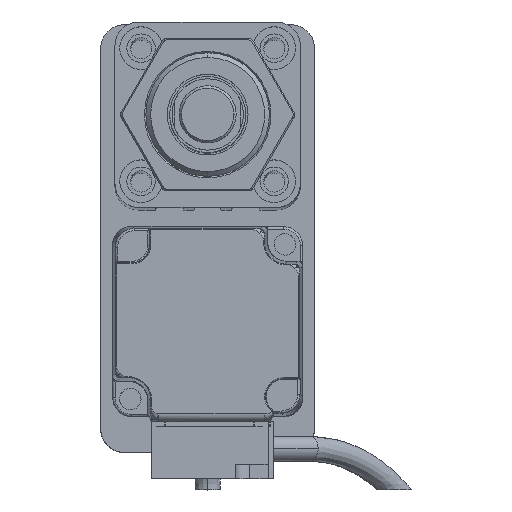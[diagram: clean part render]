
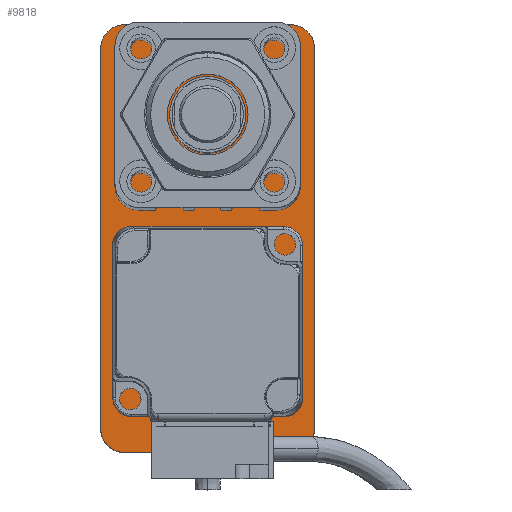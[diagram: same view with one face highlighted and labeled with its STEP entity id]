
A CAD part, top view. The second image highlights one B-rep face of the part: STEP entity #9818.
In plain terms, the highlighted planar face has unit normal (0, 0, 1).
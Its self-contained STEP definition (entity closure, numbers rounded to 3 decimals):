
#55 = DIRECTION ( 'NONE',  ( 0., 0., 1. ) ) ;
#258 = VERTEX_POINT ( 'NONE', #23184 ) ;
#789 = PLANE ( 'NONE',  #15013 ) ;
#870 = DIRECTION ( 'NONE',  ( 1., 0., 0. ) ) ;
#977 = CARTESIAN_POINT ( 'NONE',  ( 22.5, -45., 10. ) ) ;
#1057 = CARTESIAN_POINT ( 'NONE',  ( 0., 0., 10. ) ) ;
#1173 = AXIS2_PLACEMENT_3D ( 'NONE', #8854, #55, #10630 ) ;
#1342 = EDGE_CURVE ( 'NONE', #13574, #22463, #6592, .T. ) ;
#1699 = CARTESIAN_POINT ( 'NONE',  ( 22.5, -40., 10. ) ) ;
#1727 = VECTOR ( 'NONE', #2592, 1000. ) ;
#2592 = DIRECTION ( 'NONE',  ( 1., 0., 0. ) ) ;
#4271 = VECTOR ( 'NONE', #24513, 1000. ) ;
#4707 = DIRECTION ( 'NONE',  ( 1., 0., 0. ) ) ;
#5022 = CARTESIAN_POINT ( 'NONE',  ( -22.5, 40., 10. ) ) ;
#5264 = CARTESIAN_POINT ( 'NONE',  ( -17.5, -45., 10. ) ) ;
#5456 = CIRCLE ( 'NONE', #5901, 5. ) ;
#5901 = AXIS2_PLACEMENT_3D ( 'NONE', #13506, #15554, #4707 ) ;
#6592 = LINE ( 'NONE', #977, #4271 ) ;
#6759 = VECTOR ( 'NONE', #16920, 1000. ) ;
#6995 = VERTEX_POINT ( 'NONE', #5022 ) ;
#7501 = ORIENTED_EDGE ( 'NONE', *, *, #12683, .T. ) ;
#7517 = VERTEX_POINT ( 'NONE', #9812 ) ;
#8854 = CARTESIAN_POINT ( 'NONE',  ( -17.5, -40., 10. ) ) ;
#9477 = CARTESIAN_POINT ( 'NONE',  ( 17.5, -45., 10. ) ) ;
#9695 = EDGE_CURVE ( 'NONE', #7517, #18145, #11259, .T. ) ;
#9771 = LINE ( 'NONE', #22227, #22162 ) ;
#9812 = CARTESIAN_POINT ( 'NONE',  ( -22.5, -40., 10. ) ) ;
#9818 = ADVANCED_FACE ( 'NONE', ( #27679 ), #789, .T. ) ;
#10143 = VERTEX_POINT ( 'NONE', #9477 ) ;
#10442 = ORIENTED_EDGE ( 'NONE', *, *, #21513, .T. ) ;
#10630 = DIRECTION ( 'NONE',  ( 1., 0., 0. ) ) ;
#11259 = CIRCLE ( 'NONE', #1173, 5. ) ;
#12683 = EDGE_CURVE ( 'NONE', #18145, #10143, #24527, .T. ) ;
#13226 = EDGE_CURVE ( 'NONE', #6995, #7517, #9771, .T. ) ;
#13506 = CARTESIAN_POINT ( 'NONE',  ( 17.5, 40., 10. ) ) ;
#13574 = VERTEX_POINT ( 'NONE', #1699 ) ;
#13946 = CARTESIAN_POINT ( 'NONE',  ( 17.5, -40., 10. ) ) ;
#14043 = DIRECTION ( 'NONE',  ( 0., 0., 1. ) ) ;
#14147 = DIRECTION ( 'NONE',  ( 1., 0., 0. ) ) ;
#14420 = DIRECTION ( 'NONE',  ( 0., 0., 1. ) ) ;
#14509 = ORIENTED_EDGE ( 'NONE', *, *, #20453, .T. ) ;
#14803 = LINE ( 'NONE', #27633, #6759 ) ;
#15013 = AXIS2_PLACEMENT_3D ( 'NONE', #1057, #24405, #870 ) ;
#15554 = DIRECTION ( 'NONE',  ( 0., 0., 1. ) ) ;
#15606 = ORIENTED_EDGE ( 'NONE', *, *, #24502, .T. ) ;
#16920 = DIRECTION ( 'NONE',  ( -1., 0., 0. ) ) ;
#17274 = ORIENTED_EDGE ( 'NONE', *, *, #9695, .T. ) ;
#18145 = VERTEX_POINT ( 'NONE', #5264 ) ;
#18247 = DIRECTION ( 'NONE',  ( 1., 0., 0. ) ) ;
#18410 = CIRCLE ( 'NONE', #21432, 5. ) ;
#18485 = EDGE_LOOP ( 'NONE', ( #21726, #14509, #10442, #15606, #21959, #17274, #7501, #25807 ) ) ;
#19537 = CIRCLE ( 'NONE', #23681, 5. ) ;
#20453 = EDGE_CURVE ( 'NONE', #22463, #258, #5456, .T. ) ;
#20526 = EDGE_CURVE ( 'NONE', #10143, #13574, #19537, .T. ) ;
#21432 = AXIS2_PLACEMENT_3D ( 'NONE', #23049, #14420, #14147 ) ;
#21513 = EDGE_CURVE ( 'NONE', #258, #26873, #14803, .T. ) ;
#21726 = ORIENTED_EDGE ( 'NONE', *, *, #1342, .T. ) ;
#21959 = ORIENTED_EDGE ( 'NONE', *, *, #13226, .T. ) ;
#22162 = VECTOR ( 'NONE', #24388, 1000. ) ;
#22167 = CARTESIAN_POINT ( 'NONE',  ( 22.5, -45., 10. ) ) ;
#22227 = CARTESIAN_POINT ( 'NONE',  ( -22.5, -45., 10. ) ) ;
#22463 = VERTEX_POINT ( 'NONE', #26423 ) ;
#23049 = CARTESIAN_POINT ( 'NONE',  ( -17.5, 40., 10. ) ) ;
#23184 = CARTESIAN_POINT ( 'NONE',  ( 17.5, 45., 10. ) ) ;
#23681 = AXIS2_PLACEMENT_3D ( 'NONE', #13946, #14043, #18247 ) ;
#24388 = DIRECTION ( 'NONE',  ( 0., -1., 0. ) ) ;
#24405 = DIRECTION ( 'NONE',  ( 0., 0., 1. ) ) ;
#24502 = EDGE_CURVE ( 'NONE', #26873, #6995, #18410, .T. ) ;
#24512 = CARTESIAN_POINT ( 'NONE',  ( -17.5, 45., 10. ) ) ;
#24513 = DIRECTION ( 'NONE',  ( 0., 1., 0. ) ) ;
#24527 = LINE ( 'NONE', #22167, #1727 ) ;
#25807 = ORIENTED_EDGE ( 'NONE', *, *, #20526, .T. ) ;
#26423 = CARTESIAN_POINT ( 'NONE',  ( 22.5, 40., 10. ) ) ;
#26873 = VERTEX_POINT ( 'NONE', #24512 ) ;
#27633 = CARTESIAN_POINT ( 'NONE',  ( 22.5, 45., 10. ) ) ;
#27679 = FACE_OUTER_BOUND ( 'NONE', #18485, .T. ) ;
